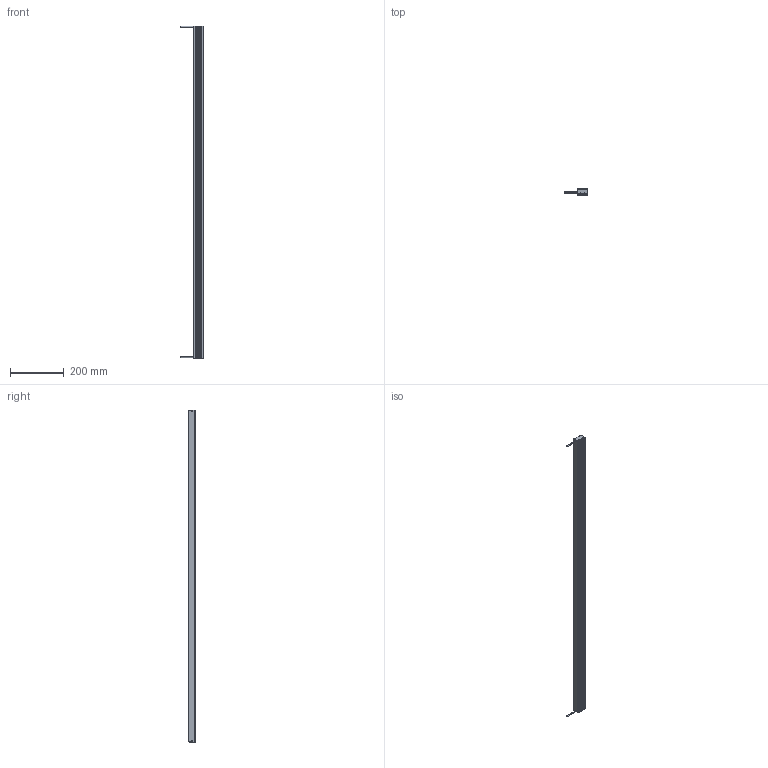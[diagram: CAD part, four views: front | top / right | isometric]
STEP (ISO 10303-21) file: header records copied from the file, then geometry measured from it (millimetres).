
FILE_DESCRIPTION (( 'STEP AP203' ), '1' );
FILE_NAME ('P-BL2-1227-38.STEP', '2021-10-06T03:16:56', ( 'PC' ), ( 'Microsoft' ), 'SwSTEP 2.0', 'SolidWorks 2016', '' );
FILE_SCHEMA (( 'CONFIG_CONTROL_DESIGN' ));
Length unit declared in the file: millimetre
Products named in the file (1): P-BL2-1227-38
Bounding box: 86 x 27 x 1230 mm (x, y, z)
Volume: 1031108 mm3; surface area: 290753.7 mm2
Topology: 5 solids, 5 shells, 503 faces, 1291 edges, 794 vertices
Faces by surface type: plane 414, cylinder 53, cone 36
Entity records: 14848 total; most frequent: CARTESIAN_POINT 2593, ORIENTED_EDGE 2566, DIRECTION 2421, EDGE_CURVE 1283, VECTOR 1145, LINE 1145, VERTEX_POINT 794, AXIS2_PLACEMENT_3D 638
